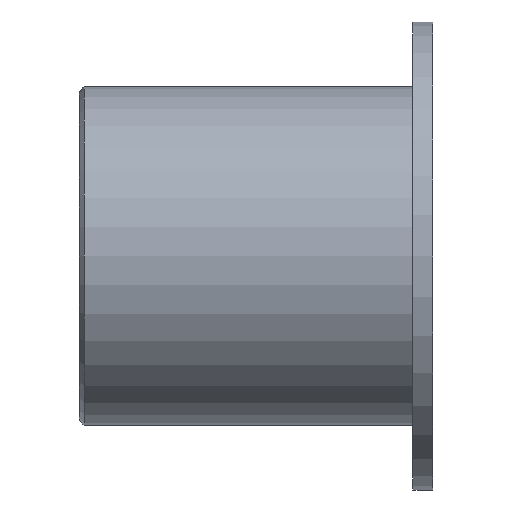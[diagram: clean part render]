
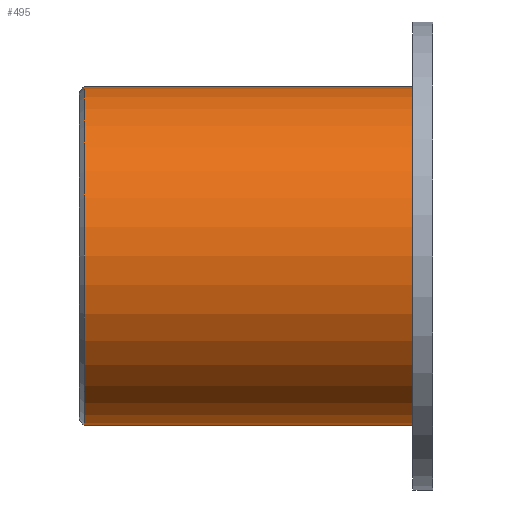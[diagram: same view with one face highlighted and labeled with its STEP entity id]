
A CAD part, front view. The second image highlights one B-rep face of the part: STEP entity #495.
In plain terms, the highlighted cylindrical face has radius 17 mm (diameter 34 mm), a full revolution.
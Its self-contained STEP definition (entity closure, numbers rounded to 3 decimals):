
#18=CYLINDRICAL_SURFACE('',#547,17.);
#36=FACE_BOUND('',#97,.T.);
#63=FACE_OUTER_BOUND('',#96,.T.);
#96=EDGE_LOOP('',(#397));
#97=EDGE_LOOP('',(#398));
#195=CIRCLE('',#546,17.);
#196=CIRCLE('',#548,17.);
#242=VERTEX_POINT('',#832);
#243=VERTEX_POINT('',#835);
#301=EDGE_CURVE('',#242,#242,#195,.T.);
#302=EDGE_CURVE('',#243,#243,#196,.T.);
#397=ORIENTED_EDGE('',*,*,#302,.T.);
#398=ORIENTED_EDGE('',*,*,#301,.F.);
#495=ADVANCED_FACE('',(#63,#36),#18,.T.);
#546=AXIS2_PLACEMENT_3D('',#833,#670,#671);
#547=AXIS2_PLACEMENT_3D('',#834,#672,#673);
#548=AXIS2_PLACEMENT_3D('',#836,#674,#675);
#670=DIRECTION('center_axis',(-1.,0.,0.));
#671=DIRECTION('ref_axis',(0.,0.,-1.));
#672=DIRECTION('center_axis',(1.,0.,0.));
#673=DIRECTION('ref_axis',(0.,0.,-1.));
#674=DIRECTION('center_axis',(-1.,0.,0.));
#675=DIRECTION('ref_axis',(0.,0.,-1.));
#832=CARTESIAN_POINT('',(0.5,0.,17.));
#833=CARTESIAN_POINT('Origin',(0.5,0.,0.));
#834=CARTESIAN_POINT('Origin',(0.,0.,0.));
#835=CARTESIAN_POINT('',(33.5,0.,17.));
#836=CARTESIAN_POINT('Origin',(33.5,0.,0.));
